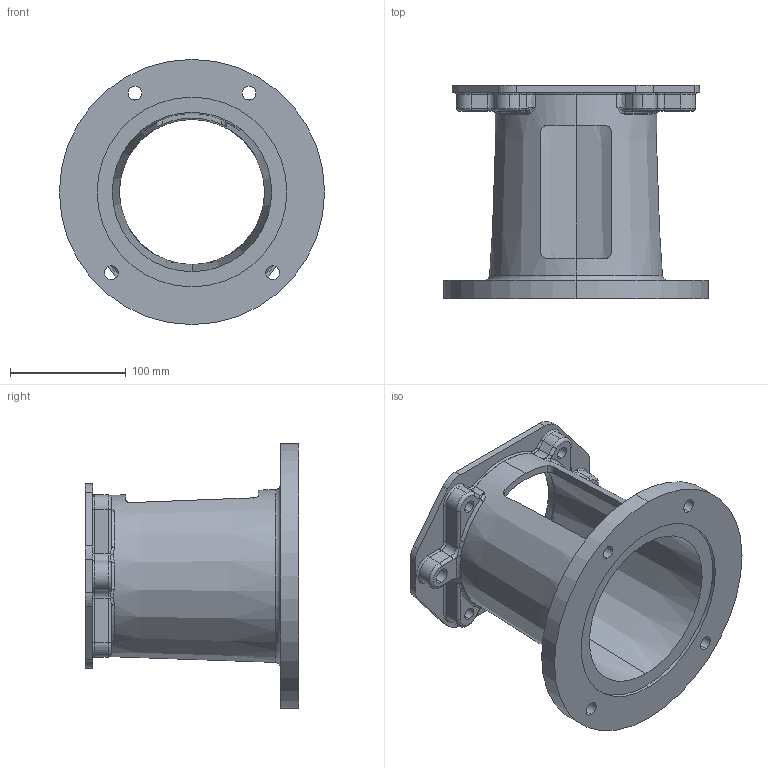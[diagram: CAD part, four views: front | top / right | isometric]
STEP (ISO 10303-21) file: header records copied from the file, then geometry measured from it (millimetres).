
FILE_DESCRIPTION (( 'STEP AP203' ), '1' );
FILE_NAME ('E64472125M.STEP', '2014-11-03T19:01:14', ( '' ), ( '' ), 'SwSTEP 2.0', 'SolidWorks 2014', '' );
FILE_SCHEMA (( 'CONFIG_CONTROL_DESIGN' ));
Length unit declared in the file: inch
Products named in the file (1): E64472125M
Bounding box: 228.6 x 184.15 x 228.6 mm (x, y, z)
Volume: 956247.6 mm3; surface area: 238590 mm2
Topology: 1 solids, 1 shells, 214 faces, 551 edges, 328 vertices
Faces by surface type: cylinder 74, torus 53, bspline 40, plane 35, sphere 8, cone 4
Entity records: 8281 total; most frequent: CARTESIAN_POINT 3236, ORIENTED_EDGE 1078, DIRECTION 1038, EDGE_CURVE 539, AXIS2_PLACEMENT_3D 448, VERTEX_POINT 328, CIRCLE 273, EDGE_LOOP 239
